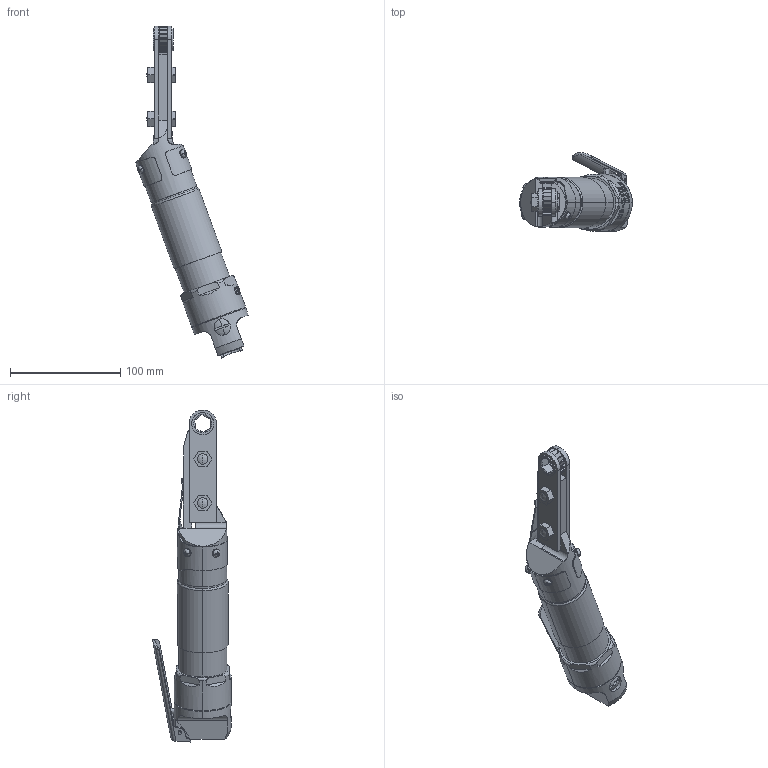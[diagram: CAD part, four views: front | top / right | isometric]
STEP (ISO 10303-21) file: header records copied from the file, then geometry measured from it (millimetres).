
FILE_DESCRIPTION (( 'STEP AP203' ), '1' );
FILE_NAME ('URW-80.STEP', '2006-02-17T00:19:11', ( '' ), ( '' ), 'SwSTEP 2.0', 'SolidWorks 2004073', '' );
FILE_SCHEMA (( 'CONFIG_CONTROL_DESIGN' ));
Length unit declared in the file: millimetre
Products named in the file (7): 2293811_蹬怮椔; 2126561_蹬怮椔; 2010251_蹬怮椔; URW-80; 2010141_蹬怮椔; 2011041_蹬怮椔; 0201071_蹬怮椔
Assembly tree (6 placements, depth 2):
  URW-80
    2011041_蹬怮椔
    2010251_蹬怮椔
    2293811_蹬怮椔
    0201071_蹬怮椔
    2010141_蹬怮椔
    2126561_蹬怮椔
Bounding box: 102.48 x 71.58 x 301.77 mm (x, y, z)
Volume: 372367.6 mm3; surface area: 63815 mm2
Topology: 6 solids, 6 shells, 557 faces, 1493 edges, 987 vertices
Faces by surface type: plane 307, cylinder 157, bspline 60, torus 19, cone 8, sphere 6
Entity records: 23304 total; most frequent: CARTESIAN_POINT 9140, ORIENTED_EDGE 2986, DIRECTION 2534, EDGE_CURVE 1493, VERTEX_POINT 987, AXIS2_PLACEMENT_3D 857, VECTOR 820, LINE 820
